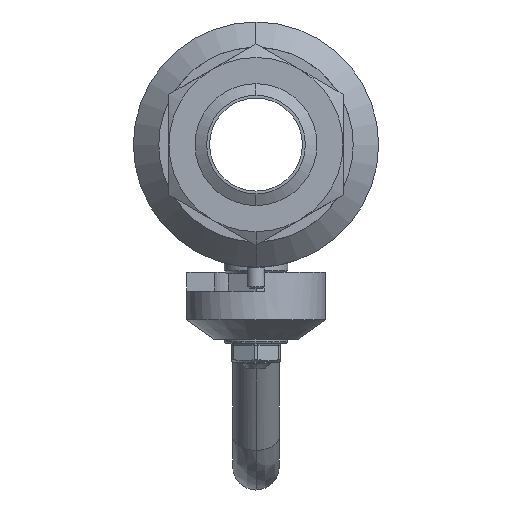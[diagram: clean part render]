
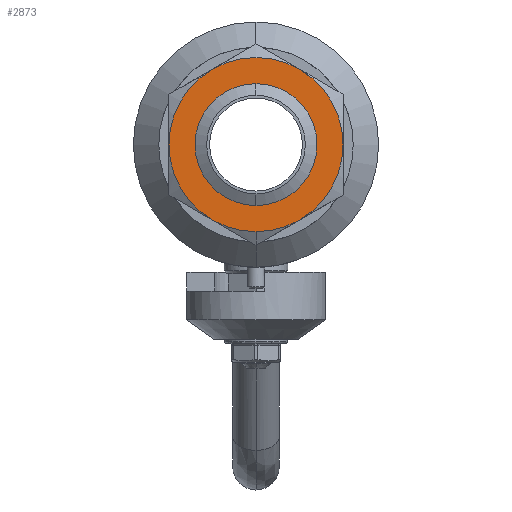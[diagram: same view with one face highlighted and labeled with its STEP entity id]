
A CAD part, left-side view. The second image highlights one B-rep face of the part: STEP entity #2873.
In plain terms, the highlighted planar face has unit normal (-1, 0, 0).
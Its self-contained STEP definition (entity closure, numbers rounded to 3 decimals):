
#33 = ORIENTED_EDGE ( 'NONE', *, *, #3529, .F. ) ;
#57 = EDGE_CURVE ( 'NONE', #139, #2454, #5913, .T. ) ;
#78 = DIRECTION ( 'NONE',  ( 1., 0., 0. ) ) ;
#139 = VERTEX_POINT ( 'NONE', #2233 ) ;
#280 = EDGE_LOOP ( 'NONE', ( #5267, #5053 ) ) ;
#366 = ORIENTED_EDGE ( 'NONE', *, *, #57, .F. ) ;
#486 = EDGE_CURVE ( 'NONE', #5936, #139, #6703, .T. ) ;
#558 = DIRECTION ( 'NONE',  ( 1., 0., 0. ) ) ;
#587 = DIRECTION ( 'NONE',  ( -1., 0., 0. ) ) ;
#727 = CIRCLE ( 'NONE', #8990, 30. ) ;
#728 = DIRECTION ( 'NONE',  ( 0., 0., -1. ) ) ;
#879 = CARTESIAN_POINT ( 'NONE',  ( -84.3, -15., -25.981 ) ) ;
#907 = EDGE_CURVE ( 'NONE', #10517, #7543, #10422, .T. ) ;
#1047 = AXIS2_PLACEMENT_3D ( 'NONE', #10660, #5692, #728 ) ;
#1186 = FACE_BOUND ( 'NONE', #280, .T. ) ;
#1488 = DIRECTION ( 'NONE',  ( 1., 0., 0. ) ) ;
#1669 = ORIENTED_EDGE ( 'NONE', *, *, #10405, .F. ) ;
#2233 = CARTESIAN_POINT ( 'NONE',  ( -84.3, -15., 25.981 ) ) ;
#2283 = DIRECTION ( 'NONE',  ( 1., 0., 0. ) ) ;
#2318 = EDGE_LOOP ( 'NONE', ( #9456, #33, #2960, #4175, #1669, #366, #7422 ) ) ;
#2454 = VERTEX_POINT ( 'NONE', #4608 ) ;
#2873 = ADVANCED_FACE ( 'NONE', ( #5341, #1186 ), #3030, .T. ) ;
#2960 = ORIENTED_EDGE ( 'NONE', *, *, #907, .F. ) ;
#3030 = PLANE ( 'NONE',  #7670 ) ;
#3278 = AXIS2_PLACEMENT_3D ( 'NONE', #4778, #10576, #5618 ) ;
#3431 = CARTESIAN_POINT ( 'NONE',  ( -84.3, 0., -21. ) ) ;
#3529 = EDGE_CURVE ( 'NONE', #7543, #6686, #5793, .T. ) ;
#3903 = DIRECTION ( 'NONE',  ( 1., 0., 0. ) ) ;
#4154 = CARTESIAN_POINT ( 'NONE',  ( -84.3, 30., 0. ) ) ;
#4175 = ORIENTED_EDGE ( 'NONE', *, *, #5570, .F. ) ;
#4237 = DIRECTION ( 'NONE',  ( 1., 0., 0. ) ) ;
#4393 = CARTESIAN_POINT ( 'NONE',  ( -84.3, 0., 0. ) ) ;
#4506 = EDGE_CURVE ( 'NONE', #6686, #5936, #727, .T. ) ;
#4608 = CARTESIAN_POINT ( 'NONE',  ( -84.3, -30., 0. ) ) ;
#4778 = CARTESIAN_POINT ( 'NONE',  ( -84.3, 0., 0. ) ) ;
#4826 = AXIS2_PLACEMENT_3D ( 'NONE', #9232, #4237, #10058 ) ;
#4890 = CIRCLE ( 'NONE', #5672, 30. ) ;
#5053 = ORIENTED_EDGE ( 'NONE', *, *, #9470, .T. ) ;
#5057 = CARTESIAN_POINT ( 'NONE',  ( -84.3, 0., 0. ) ) ;
#5178 = VERTEX_POINT ( 'NONE', #5292 ) ;
#5249 = DIRECTION ( 'NONE',  ( 0., 0., -1. ) ) ;
#5267 = ORIENTED_EDGE ( 'NONE', *, *, #6395, .T. ) ;
#5292 = CARTESIAN_POINT ( 'NONE',  ( -84.3, 0., 21. ) ) ;
#5341 = FACE_OUTER_BOUND ( 'NONE', #2318, .T. ) ;
#5370 = AXIS2_PLACEMENT_3D ( 'NONE', #4393, #10209, #5249 ) ;
#5508 = CARTESIAN_POINT ( 'NONE',  ( -84.3, 0., 0. ) ) ;
#5570 = EDGE_CURVE ( 'NONE', #8518, #10517, #8712, .T. ) ;
#5618 = DIRECTION ( 'NONE',  ( 0., 0., -1. ) ) ;
#5654 = CARTESIAN_POINT ( 'NONE',  ( -84.3, 0., -30. ) ) ;
#5672 = AXIS2_PLACEMENT_3D ( 'NONE', #8889, #3903, #9732 ) ;
#5692 = DIRECTION ( 'NONE',  ( 1., 0., 0. ) ) ;
#5793 = CIRCLE ( 'NONE', #5370, 30. ) ;
#5879 = DIRECTION ( 'NONE',  ( 0., 0., -1. ) ) ;
#5913 = CIRCLE ( 'NONE', #9644, 30. ) ;
#5936 = VERTEX_POINT ( 'NONE', #6270 ) ;
#6270 = CARTESIAN_POINT ( 'NONE',  ( -84.3, 15., 25.981 ) ) ;
#6348 = DIRECTION ( 'NONE',  ( 0., 0., -1. ) ) ;
#6358 = CIRCLE ( 'NONE', #3278, 21. ) ;
#6384 = DIRECTION ( 'NONE',  ( 0., 0., 1. ) ) ;
#6395 = EDGE_CURVE ( 'NONE', #9487, #5178, #6358, .T. ) ;
#6404 = CARTESIAN_POINT ( 'NONE',  ( -84.3, 15., -25.981 ) ) ;
#6482 = CARTESIAN_POINT ( 'NONE',  ( -84.3, 0., 0. ) ) ;
#6686 = VERTEX_POINT ( 'NONE', #4154 ) ;
#6703 = CIRCLE ( 'NONE', #8114, 30. ) ;
#7271 = CARTESIAN_POINT ( 'NONE',  ( -84.3, 0., 0. ) ) ;
#7319 = DIRECTION ( 'NONE',  ( 0., 0., -1. ) ) ;
#7422 = ORIENTED_EDGE ( 'NONE', *, *, #486, .F. ) ;
#7543 = VERTEX_POINT ( 'NONE', #6404 ) ;
#7670 = AXIS2_PLACEMENT_3D ( 'NONE', #7970, #587, #6384 ) ;
#7970 = CARTESIAN_POINT ( 'NONE',  ( -84.3, 0., 0. ) ) ;
#8087 = DIRECTION ( 'NONE',  ( 0., 0., -1. ) ) ;
#8114 = AXIS2_PLACEMENT_3D ( 'NONE', #6482, #1488, #7319 ) ;
#8518 = VERTEX_POINT ( 'NONE', #879 ) ;
#8712 = CIRCLE ( 'NONE', #9284, 30. ) ;
#8889 = CARTESIAN_POINT ( 'NONE',  ( -84.3, 0., 0. ) ) ;
#8990 = AXIS2_PLACEMENT_3D ( 'NONE', #5508, #558, #6348 ) ;
#9232 = CARTESIAN_POINT ( 'NONE',  ( -84.3, 0., 0. ) ) ;
#9284 = AXIS2_PLACEMENT_3D ( 'NONE', #5057, #78, #5879 ) ;
#9456 = ORIENTED_EDGE ( 'NONE', *, *, #4506, .F. ) ;
#9470 = EDGE_CURVE ( 'NONE', #5178, #9487, #10232, .T. ) ;
#9487 = VERTEX_POINT ( 'NONE', #3431 ) ;
#9644 = AXIS2_PLACEMENT_3D ( 'NONE', #7271, #2283, #8087 ) ;
#9732 = DIRECTION ( 'NONE',  ( 0., 0., -1. ) ) ;
#10058 = DIRECTION ( 'NONE',  ( 0., 0., -1. ) ) ;
#10209 = DIRECTION ( 'NONE',  ( 1., 0., 0. ) ) ;
#10232 = CIRCLE ( 'NONE', #4826, 21. ) ;
#10405 = EDGE_CURVE ( 'NONE', #2454, #8518, #4890, .T. ) ;
#10422 = CIRCLE ( 'NONE', #1047, 30. ) ;
#10517 = VERTEX_POINT ( 'NONE', #5654 ) ;
#10576 = DIRECTION ( 'NONE',  ( 1., 0., 0. ) ) ;
#10660 = CARTESIAN_POINT ( 'NONE',  ( -84.3, 0., 0. ) ) ;
